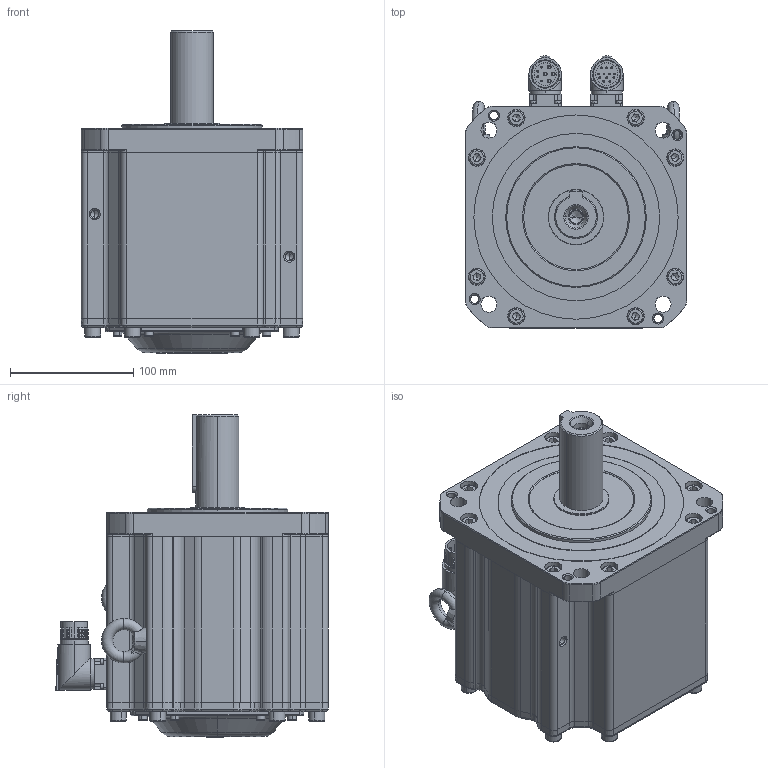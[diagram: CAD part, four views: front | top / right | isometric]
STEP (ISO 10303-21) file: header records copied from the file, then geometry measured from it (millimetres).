
FILE_DESCRIPTION (( 'STEP AP203' ), '1' );
FILE_NAME ('MC20-180-3M20-N352-0¡õPK-NNNN.STEP', '2025-05-05T03:30:36', ( '' ), ( '' ), 'SwSTEP 2.0', 'SolidWorks 2014', '' );
FILE_SCHEMA (( 'CONFIG_CONTROL_DESIGN' ));
Products named in the file (1): MC20-180-3M20-N352-0¡õPK-NNNN
Bounding box: 180 x 221.35 x 261.95 mm (x, y, z)
Volume: 3906548.5 mm3; surface area: 497883 mm2
Topology: 40 solids, 42 shells, 2190 faces, 5098 edges, 3031 vertices
Faces by surface type: plane 883, cylinder 569, cone 483, torus 208, bspline 47
Entity records: 63884 total; most frequent: CARTESIAN_POINT 13740, DIRECTION 11030, ORIENTED_EDGE 9944, EDGE_CURVE 4972, AXIS2_PLACEMENT_3D 4270, VERTEX_POINT 3031, LINE 2490, VECTOR 2490
